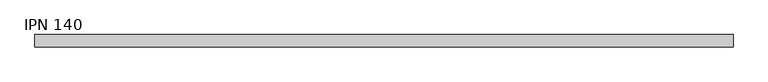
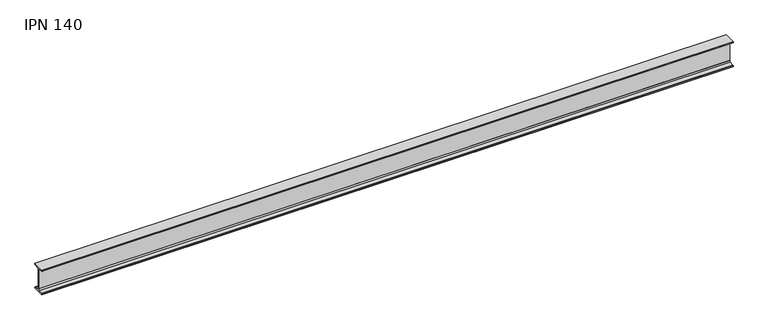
"""IFC4 building model written with IfcOpenShell, lengths in millimetres: beam geometry, IPN - Secciones en I con alas cónicas : IPN 140."""

from ifc_helpers import new_model, si_unit, point, frame, frame_2d, origin, place, context, project, spatial, polyline, circle_curve, trimmed, segment, composite_curve, outline, extrude, source, transform, mapped, element, save


def ipn_140_9560b9f3(model_context):
    return source(origin(), model_context, "Body", "SweptSolid", [
        extrude(outline(composite_curve([segment(polyline([(33.0, 70.0), (33.0, 66.6671583)]), True, "CONTINUOUS"), segment(trimmed(circle_curve(frame_2d((29.6, 66.6671583)), 3.4), [point((33.0, 66.6671583))], [point((30.0714027, 63.2999964))], False, "CARTESIAN"), True, "CONTINUOUS"), segment(polyline([(30.0714027, 63.2999964), (7.7597073, 60.176359)]), True, "CONTINUOUS"), segment(trimmed(circle_curve(frame_2d((8.55, 54.5314111)), 5.7), [point((7.7597073, 60.176359))], [point((2.85, 54.5314111))], True, "CARTESIAN"), True, "CONTINUOUS"), segment(polyline([(2.85, 54.5314111), (2.85, -54.5314111)]), True, "CONTINUOUS"), segment(trimmed(circle_curve(frame_2d((8.55, -54.5314111)), 5.7), [point((2.85, -54.5314111))], [point((7.7597073, -60.176359))], True, "CARTESIAN"), True, "CONTINUOUS"), segment(polyline([(7.7597073, -60.176359), (30.0714027, -63.2999964)]), True, "CONTINUOUS"), segment(trimmed(circle_curve(frame_2d((29.6, -66.6671583)), 3.4), [point((30.0714027, -63.2999964))], [point((33.0, -66.6671583))], False, "CARTESIAN"), True, "CONTINUOUS"), segment(polyline([(33.0, -66.6671583), (33.0, -70.0), (-33.0, -70.0), (-33.0, -66.6671583)]), True, "CONTINUOUS"), segment(trimmed(circle_curve(frame_2d((-29.6, -66.6671583)), 3.4), [point((-33.0, -66.6671583))], [point((-30.0714027, -63.2999964))], False, "CARTESIAN"), True, "CONTINUOUS"), segment(polyline([(-30.0714027, -63.2999964), (-7.7597073, -60.176359)]), True, "CONTINUOUS"), segment(trimmed(circle_curve(frame_2d((-8.55, -54.5314111)), 5.7), [point((-7.7597073, -60.176359))], [point((-2.85, -54.5314111))], True, "CARTESIAN"), True, "CONTINUOUS"), segment(polyline([(-2.85, -54.5314111), (-2.85, 54.5314111)]), True, "CONTINUOUS"), segment(trimmed(circle_curve(frame_2d((-8.55, 54.5314111)), 5.7), [point((-2.85, 54.5314111))], [point((-7.7597073, 60.176359))], True, "CARTESIAN"), True, "CONTINUOUS"), segment(polyline([(-7.7597073, 60.176359), (-30.0714027, 63.2999964)]), True, "CONTINUOUS"), segment(trimmed(circle_curve(frame_2d((-29.6, 66.6671583)), 3.4), [point((-30.0714027, 63.2999964))], [point((-33.0, 66.6671583))], False, "CARTESIAN"), True, "CONTINUOUS"), segment(polyline([(-33.0, 66.6671583), (-33.0, 70.0), (33.0, 70.0)]), True, "CONTINUOUS")], self_intersect=False)), frame((-1852.5, 0.0, 0.0), z_axis=(1.0, 0.0, 0.0), x_axis=(0.0, 1.0, 0.0)), (0.0, 0.0, 1.0), 3717.2273117),
    ])


if __name__ == "__main__":
    model = new_model("IFC4")
    model_context = context("Model", 3, world=origin())
    ifc_project = project(units=[si_unit("LENGTHUNIT", "METRE", prefix="MILLI")], contexts=[model_context])
    site = spatial("IfcSite", under=ifc_project)
    building = spatial("IfcBuilding", under=site)
    placement = place(None, origin())
    ipn_140_shape = ipn_140_9560b9f3(model_context)
    element("IfcBeam", 1, ObjectType="IPN - Secciones en I con alas cónicas : IPN 140", at=placement, inside=building, context=model_context, shape_type="MappedRepresentation", body=[
        mapped(ipn_140_shape, transform((0.0, 0.0, 0.0), x_axis=(1.0, 0.0, 0.0), y_axis=(0.0, 1.0, 0.0), z_axis=(0.0, 0.0, 1.0))),
    ])
    save(model, "model.ifc")
